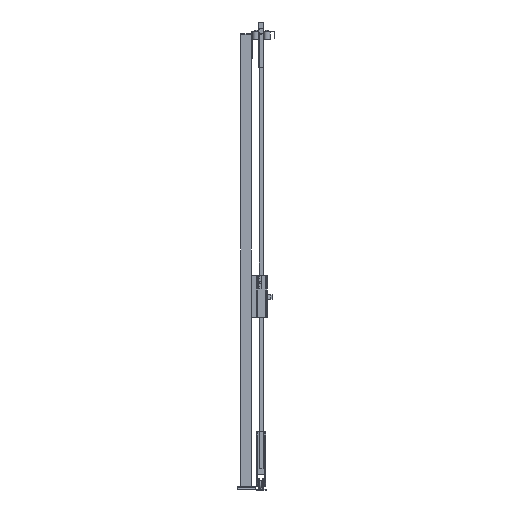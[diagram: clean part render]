
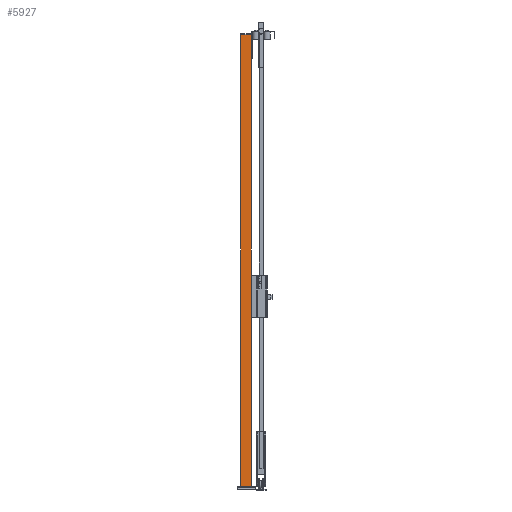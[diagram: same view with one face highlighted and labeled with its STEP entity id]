
A CAD part, left-side view. The second image highlights one B-rep face of the part: STEP entity #5927.
In plain terms, the highlighted planar face has unit normal (-1, 0, 0) as drawn and (0, 1, 0) by its records, which use the part's own axes.
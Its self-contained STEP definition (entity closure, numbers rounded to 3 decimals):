
#778=FACE_OUTER_BOUND('',#1081,.T.);
#1081=EDGE_LOOP('',(#4356,#4357,#4358,#4359));
#1532=LINE('',#8841,#2257);
#1538=LINE('',#8853,#2263);
#1541=LINE('',#8858,#2266);
#1542=LINE('',#8860,#2267);
#2257=VECTOR('',#6965,1.);
#2263=VECTOR('',#6973,1.);
#2266=VECTOR('',#6980,1.);
#2267=VECTOR('',#6983,1.);
#2871=VERTEX_POINT('',#8838);
#2872=VERTEX_POINT('',#8840);
#2874=VERTEX_POINT('',#8846);
#2877=VERTEX_POINT('',#8851);
#3465=EDGE_CURVE('',#2871,#2872,#1532,.T.);
#3471=EDGE_CURVE('',#2877,#2874,#1538,.T.);
#3474=EDGE_CURVE('',#2872,#2877,#1541,.T.);
#3475=EDGE_CURVE('',#2871,#2874,#1542,.T.);
#4356=ORIENTED_EDGE('',*,*,#3475,.T.);
#4357=ORIENTED_EDGE('',*,*,#3471,.F.);
#4358=ORIENTED_EDGE('',*,*,#3474,.F.);
#4359=ORIENTED_EDGE('',*,*,#3465,.F.);
#5674=PLANE('',#6279);
#5927=ADVANCED_FACE('',(#778),#5674,.F.);
#6279=AXIS2_PLACEMENT_3D('',#8859,#6981,#6982);
#6965=DIRECTION('',(-1.,0.,0.));
#6973=DIRECTION('',(1.,0.,0.));
#6980=DIRECTION('',(0.,0.,-1.));
#6981=DIRECTION('center_axis',(0.,-1.,0.));
#6982=DIRECTION('ref_axis',(0.,0.,-1.));
#6983=DIRECTION('',(0.,0.,-1.));
#8838=CARTESIAN_POINT('',(30.,30.,2520.));
#8840=CARTESIAN_POINT('',(-30.,30.,2520.));
#8841=CARTESIAN_POINT('',(0.,30.,2520.));
#8846=CARTESIAN_POINT('',(30.,30.,20.));
#8851=CARTESIAN_POINT('',(-30.,30.,20.));
#8853=CARTESIAN_POINT('',(0.,30.,20.));
#8858=CARTESIAN_POINT('',(-30.,30.,1270.));
#8859=CARTESIAN_POINT('Origin',(0.,30.,
1270.));
#8860=CARTESIAN_POINT('',(30.,30.,1270.));
